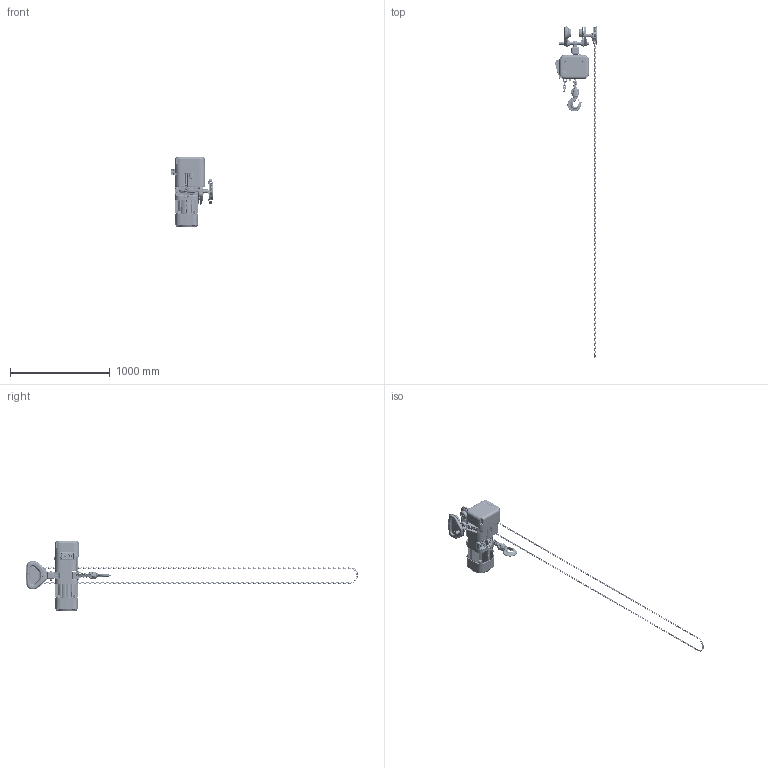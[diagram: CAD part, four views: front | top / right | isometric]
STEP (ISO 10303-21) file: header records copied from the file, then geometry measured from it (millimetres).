
FILE_DESCRIPTION (( 'STEP AP214' ), '1' );
FILE_NAME ('NER2G020S.STEP', '2026-08-04T14:49:15', ( '' ), ( '' ), 'SwSTEP 2.0', 'SolidWorks 2026', '' );
FILE_SCHEMA (( 'AUTOMOTIVE_DESIGN' ));
Length unit declared in the file: inch
Products named in the file (74): T7GB0109121; ER2BHM20S9A5; ER1ES9032; 9091255_9091255; J1WS011-20100_Rectangular section spring washer BS 4464 - 16 (Type B); ER2ES1011; split pin (metric) as_9009423; E3S111003; NER2020S_FOR GEARED TROLLEY; 6304Z Bearing; ES088020L_ES088020; J1BG10604024_J1BG10604024; T6GA0109126; T6GA0209103; socket head cap screw_am_9091274; T6G5102020; ER2CS2564; ES127005S; MS104020; MS561010; 90912116_90912116; flat washer narrow_am_9012515; ER2ES9104_ER2ES9104; ER2CS9511; T6G156020; T6GA0209112; T6G5121010; ER2ES4511; T7G117020; 9009436_9009436; ER2ES9338; basic external retaining ring_am_9047120; NER2G020S; LCER2020NP; T6GA0209102; T7GB004020; T6GA0109125; T6G123010; HCCF005 for GT2020; ER2CS9357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
Assembly tree (404 placements, depth 5):
  NER2G020S
    NER2020S_FOR GEARED TROLLEY
      ER2ES9104_ER2ES9104
      ER2ES9103
      ER2ES9101
      ER2ES9105
      ER2ES9107_ER2ES9107
      9091255_9091255  x4
      90912116_90912116  x4
      E3S112003
      E3S111003
      ES127005S
      ER1BS9135
      ER2ES9121  x2
      J1BG10604024_J1BG10604024  x4
      ER2ES9186
      ER2ES9331
      single coil rectangular section spring washer_bsi_9012711  x4
      socket head cap screw_am_9091274  x4
      ER2ES9338
      ER2ES9337
      ER2CS9357
      ER2ES1011
        ER2ES9011
        ER2ES1002
        ER2ES2015
          ER2ES9015  x2
          J1BY9-1003526_B18.2.3.1M - Hex cap screw, M10 x 1.5 x 35 --35C  x2
          J1WS011-20100_Rectangular section spring washer BS 4464 - 16 (Type B)  x2
          9093427_9093427  x2
      ER1DL9051
      ER1ES9054
      LCER2020NP_8 LINKS
        LCER2020NP  x8
      ER2ES4511
        ER2CS9511
        MS561010  x6
        ER2ES2523
        ER2CS2564
        ES558003  x8
      ER2BHM20S9A5
      ER2ES9029
      T7GB004020
      ER1ES9032
      ES088020L_ES088020
      9009436_9009436
      LCER2020NP  x6
    GTF2020 5IN_STANDARD SUSPENSION SHAFT (3.23" ~ 6.02")
      T6G5112020
        T6GA0209112
        T6GA0209113
        T6GA0209103  x2
      T6G5111020
        T6GA0209111
        T6GA0209113
        T6GA0209122
        T6GA0209103  x2
      T6G5102020  x4
        T6GA0209102
        6304Z Bearing
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Bounding box: 424.75 x 3321.69 x 703 mm (x, y, z)
Volume: 28084073.4 mm3; surface area: 3322710.2 mm2
Topology: 404 solids, 421 shells, 12030 faces, 29364 edges, 17601 vertices
Faces by surface type: cylinder 4052, plane 3411, torus 2686, bspline 928, cone 717, sphere 236
Entity records: 271749 total; most frequent: CARTESIAN_POINT 105545, ORIENTED_EDGE 34052, DIRECTION 33421, EDGE_CURVE 17028, AXIS2_PLACEMENT_3D 13280, VERTEX_POINT 10687, EDGE_LOOP 7241, CIRCLE 6965
